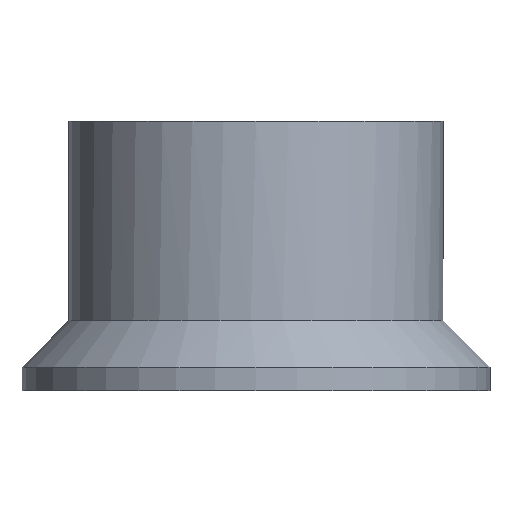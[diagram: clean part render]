
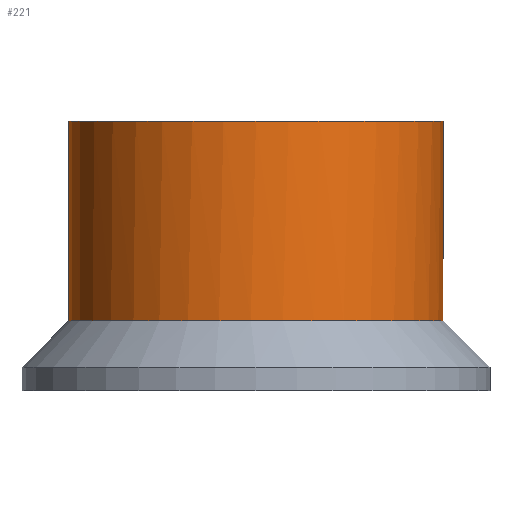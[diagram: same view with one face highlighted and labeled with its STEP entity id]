
A CAD part, front view. The second image highlights one B-rep face of the part: STEP entity #221.
In plain terms, the highlighted cylindrical face has radius 12 mm (diameter 24 mm), a full revolution.
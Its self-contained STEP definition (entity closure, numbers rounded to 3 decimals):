
#27=CYLINDRICAL_SURFACE('',#254,12.);
#33=B_SPLINE_CURVE_WITH_KNOTS('',3,(#377,#378,#379,#380,#381,#382,#383),
 .UNSPECIFIED.,.F.,.F.,(4,1,1,1,4),(0.,0.001,0.002,
0.002,0.003),.UNSPECIFIED.);
#41=ORIENTED_EDGE('',*,*,#87,.T.);
#42=ORIENTED_EDGE('',*,*,#85,.F.);
#43=ORIENTED_EDGE('',*,*,#88,.T.);
#85=EDGE_CURVE('',#108,#109,#128,.T.);
#87=EDGE_CURVE('',#110,#110,#129,.T.);
#88=EDGE_CURVE('',#108,#109,#33,.T.);
#108=VERTEX_POINT('',#363);
#109=VERTEX_POINT('',#364);
#110=VERTEX_POINT('',#376);
#128=CIRCLE('',#253,12.);
#129=CIRCLE('',#255,12.);
#146=EDGE_LOOP('',(#41));
#147=EDGE_LOOP('',(#42,#43));
#181=FACE_BOUND('',#146,.T.);
#182=FACE_BOUND('',#147,.T.);
#221=ADVANCED_FACE('',(#181,#182),#27,.T.);
#253=AXIS2_PLACEMENT_3D('',#362,#292,#293);
#254=AXIS2_PLACEMENT_3D('',#374,#294,#295);
#255=AXIS2_PLACEMENT_3D('',#375,#296,#297);
#292=DIRECTION('',(0.,0.,-1.));
#293=DIRECTION('',(-1.,0.,0.));
#294=DIRECTION('',(0.,0.,-1.));
#295=DIRECTION('',(-1.,0.,0.));
#296=DIRECTION('',(0.,0.,-1.));
#297=DIRECTION('',(-1.,0.,0.));
#362=CARTESIAN_POINT('',(0.,0.,-12.794));
#363=CARTESIAN_POINT('',(0.999,11.958,-12.794));
#364=CARTESIAN_POINT('',(-0.999,11.958,-12.794));
#374=CARTESIAN_POINT('',(0.,0.,0.));
#375=CARTESIAN_POINT('',(0.,0.,0.));
#376=CARTESIAN_POINT('',(-12.,0.,0.));
#377=CARTESIAN_POINT('',(0.999,11.958,-12.794));
#378=CARTESIAN_POINT('',(1.012,11.957,-12.522));
#379=CARTESIAN_POINT('',(0.808,11.978,-11.977));
#380=CARTESIAN_POINT('',(0.001,12.011,-11.627));
#381=CARTESIAN_POINT('',(-0.808,11.978,-11.976));
#382=CARTESIAN_POINT('',(-1.012,11.957,-12.522));
#383=CARTESIAN_POINT('',(-0.999,11.958,-12.794));
